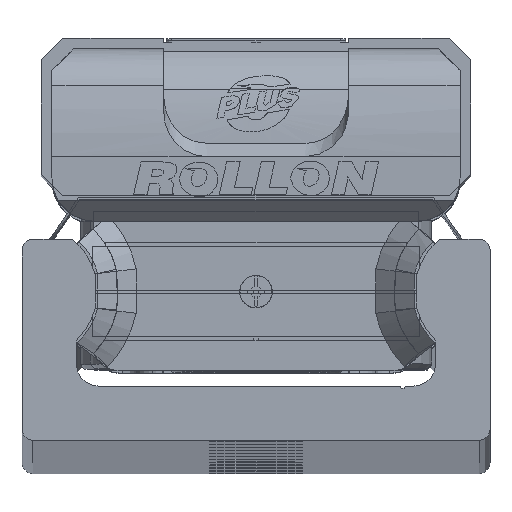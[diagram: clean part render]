
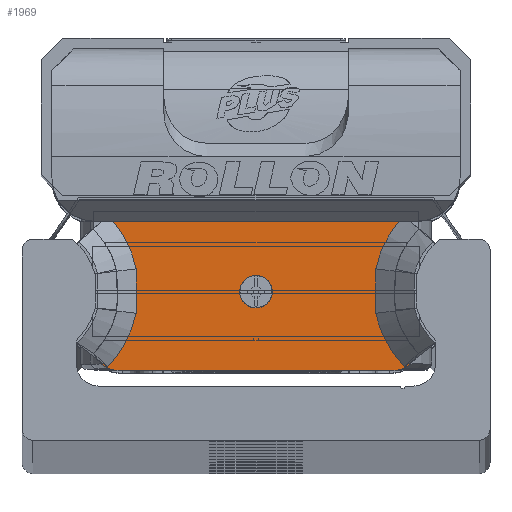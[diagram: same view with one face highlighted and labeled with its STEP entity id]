
A CAD part, top view. The second image highlights one B-rep face of the part: STEP entity #1969.
In plain terms, the highlighted planar face has unit normal (0, 0, 1) as drawn and (0, 0, -1) by its records, which use the part's own axes.
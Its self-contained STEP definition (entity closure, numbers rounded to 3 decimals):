
#1969 = ADVANCED_FACE( '', ( #4117, #4118 ), #4119, .F. );
#4117 = FACE_BOUND( '', #6539, .T. );
#4118 = FACE_OUTER_BOUND( '', #6540, .T. );
#4119 = PLANE( '', #6541 );
#6539 = EDGE_LOOP( '', ( #11703 ) );
#6540 = EDGE_LOOP( '', ( #11704, #11705, #11706, #11707, #11708, #11709, #11710, #11711, #11712, #11713, #11714, #11715 ) );
#6541 = AXIS2_PLACEMENT_3D( '', #11716, #11717, #11718 );
#11703 = ORIENTED_EDGE( '', *, *, #14163, .T. );
#11704 = ORIENTED_EDGE( '', *, *, #14283, .T. );
#11705 = ORIENTED_EDGE( '', *, *, #13188, .F. );
#11706 = ORIENTED_EDGE( '', *, *, #14951, .T. );
#11707 = ORIENTED_EDGE( '', *, *, #14031, .F. );
#11708 = ORIENTED_EDGE( '', *, *, #13887, .T. );
#11709 = ORIENTED_EDGE( '', *, *, #14419, .T. );
#11710 = ORIENTED_EDGE( '', *, *, #13433, .T. );
#11711 = ORIENTED_EDGE( '', *, *, #14952, .T. );
#11712 = ORIENTED_EDGE( '', *, *, #13110, .T. );
#11713 = ORIENTED_EDGE( '', *, *, #13672, .T. );
#11714 = ORIENTED_EDGE( '', *, *, #13273, .T. );
#11715 = ORIENTED_EDGE( '', *, *, #14953, .T. );
#11716 = CARTESIAN_POINT( '', ( 14.9, 7.35, -13.25 ) );
#11717 = DIRECTION( '', ( 0., 0., 1. ) );
#11718 = DIRECTION( '', ( 1., 0., 0. ) );
#13110 = EDGE_CURVE( '', #15586, #15584, #15587, .T. );
#13188 = EDGE_CURVE( '', #15725, #15727, #15728, .T. );
#13273 = EDGE_CURVE( '', #15872, #15870, #15873, .T. );
#13433 = EDGE_CURVE( '', #16158, #16156, #16159, .T. );
#13672 = EDGE_CURVE( '', #15584, #15872, #16554, .T. );
#13887 = EDGE_CURVE( '', #16890, #16888, #16891, .T. );
#14031 = EDGE_CURVE( '', #16890, #17107, #17108, .T. );
#14163 = EDGE_CURVE( '', #17307, #17307, #17308, .T. );
#14283 = EDGE_CURVE( '', #17483, #15727, #17484, .T. );
#14419 = EDGE_CURVE( '', #16888, #16158, #17659, .T. );
#14951 = EDGE_CURVE( '', #15725, #17107, #18324, .T. );
#14952 = EDGE_CURVE( '', #16156, #15586, #18325, .T. );
#14953 = EDGE_CURVE( '', #15870, #17483, #18326, .T. );
#15584 = VERTEX_POINT( '', #19145 );
#15586 = VERTEX_POINT( '', #19150 );
#15587 = LINE( '', #19151, #19152 );
#15725 = VERTEX_POINT( '', #19332 );
#15727 = VERTEX_POINT( '', #19335 );
#15728 = CIRCLE( '', #19336, 2.5 );
#15870 = VERTEX_POINT( '', #19524 );
#15872 = VERTEX_POINT( '', #19527 );
#15873 = B_SPLINE_CURVE_WITH_KNOTS( '', 2, ( #19528, #19529, #19530 ), .UNSPECIFIED., .F., .F., ( 3, 3 ), ( 0., 1. ), .UNSPECIFIED. );
#16156 = VERTEX_POINT( '', #19892 );
#16158 = VERTEX_POINT( '', #19895 );
#16159 = B_SPLINE_CURVE_WITH_KNOTS( '', 2, ( #19896, #19897, #19898 ), .UNSPECIFIED., .F., .F., ( 3, 3 ), ( 0., 1. ), .UNSPECIFIED. );
#16554 = B_SPLINE_CURVE_WITH_KNOTS( '', 2, ( #20445, #20446, #20447, #20448, #20449 ), .UNSPECIFIED., .F., .F., ( 3, 2, 3 ), ( 0.133, 0.5, 1. ), .UNSPECIFIED. );
#16888 = VERTEX_POINT( '', #20944 );
#16890 = VERTEX_POINT( '', #20947 );
#16891 = B_SPLINE_CURVE_WITH_KNOTS( '', 1, ( #20948, #20949 ), .UNSPECIFIED., .F., .F., ( 2, 2 ), ( 0., 1. ), .UNSPECIFIED. );
#17107 = VERTEX_POINT( '', #21246 );
#17108 = CIRCLE( '', #21247, 2.5 );
#17307 = VERTEX_POINT( '', #21522 );
#17308 = CIRCLE( '', #21523, 1.5 );
#17483 = VERTEX_POINT( '', #21769 );
#17484 = B_SPLINE_CURVE_WITH_KNOTS( '', 1, ( #21770, #21771 ), .UNSPECIFIED., .F., .F., ( 2, 2 ), ( 0., 1. ), .UNSPECIFIED. );
#17659 = B_SPLINE_CURVE_WITH_KNOTS( '', 2, ( #22011, #22012, #22013, #22014, #22015 ), .UNSPECIFIED., .F., .F., ( 3, 2, 3 ), ( 0., 0.5, 1. ), .UNSPECIFIED. );
#18324 = LINE( '', #23012, #23013 );
#18325 = B_SPLINE_CURVE_WITH_KNOTS( '', 2, ( #23014, #23015, #23016, #23017, #23018 ), .UNSPECIFIED., .F., .F., ( 3, 2, 3 ), ( 0., 0.5, 0.868 ), .UNSPECIFIED. );
#18326 = B_SPLINE_CURVE_WITH_KNOTS( '', 2, ( #23019, #23020, #23021, #23022, #23023 ), .UNSPECIFIED., .F., .F., ( 3, 2, 3 ), ( 0., 0.5, 1. ), .UNSPECIFIED. );
#19145 = CARTESIAN_POINT( '', ( 13.12, 6.4, -13.25 ) );
#19150 = CARTESIAN_POINT( '', ( -13.119, 6.4, -13.25 ) );
#19151 = CARTESIAN_POINT( '', ( 14.9, 6.4, -13.25 ) );
#19152 = VECTOR( '', #23643, 1000. );
#19332 = CARTESIAN_POINT( '', ( 12.58, -7.3, -13.25 ) );
#19335 = CARTESIAN_POINT( '', ( 14.906, -5.717, -13.25 ) );
#19336 = AXIS2_PLACEMENT_3D( '', #23764, #23765, #23766 );
#19524 = CARTESIAN_POINT( '', ( 11.012, -2.045, -13.25 ) );
#19527 = CARTESIAN_POINT( '', ( 11.012, 2.045, -13.25 ) );
#19528 = CARTESIAN_POINT( '', ( 11.012, 2.045, -13.25 ) );
#19529 = CARTESIAN_POINT( '', ( 10.888, 0., -13.25 ) );
#19530 = CARTESIAN_POINT( '', ( 11.012, -2.045, -13.25 ) );
#19892 = CARTESIAN_POINT( '', ( -11.012, 2.045, -13.25 ) );
#19895 = CARTESIAN_POINT( '', ( -11.012, -2.045, -13.25 ) );
#19896 = CARTESIAN_POINT( '', ( -11.012, -2.045, -13.25 ) );
#19897 = CARTESIAN_POINT( '', ( -10.888, 0., -13.25 ) );
#19898 = CARTESIAN_POINT( '', ( -11.012, 2.045, -13.25 ) );
#20445 = CARTESIAN_POINT( '', ( 13.119, 6.4, -13.25 ) );
#20446 = CARTESIAN_POINT( '', ( 12.459, 5.608, -13.25 ) );
#20447 = CARTESIAN_POINT( '', ( 11.968, 4.684, -13.25 ) );
#20448 = CARTESIAN_POINT( '', ( 11.301, 3.427, -13.25 ) );
#20449 = CARTESIAN_POINT( '', ( 11.012, 2.045, -13.25 ) );
#20944 = CARTESIAN_POINT( '', ( -13.628, -6.965, -13.25 ) );
#20947 = CARTESIAN_POINT( '', ( -14.904, -5.718, -13.25 ) );
#20948 = CARTESIAN_POINT( '', ( -14.915, -5.713, -13.25 ) );
#20949 = CARTESIAN_POINT( '', ( -13.628, -6.965, -13.25 ) );
#21246 = CARTESIAN_POINT( '', ( -12.58, -7.3, -13.25 ) );
#21247 = AXIS2_PLACEMENT_3D( '', #24926, #24927, #24928 );
#21522 = CARTESIAN_POINT( '', ( 1.5, -0.05, -13.25 ) );
#21523 = AXIS2_PLACEMENT_3D( '', #25096, #25097, #25098 );
#21769 = CARTESIAN_POINT( '', ( 13.628, -6.965, -13.25 ) );
#21770 = CARTESIAN_POINT( '', ( 13.628, -6.965, -13.25 ) );
#21771 = CARTESIAN_POINT( '', ( 14.9, -5.728, -13.25 ) );
#22011 = CARTESIAN_POINT( '', ( -13.628, -6.965, -13.25 ) );
#22012 = CARTESIAN_POINT( '', ( -12.638, -5.946, -13.25 ) );
#22013 = CARTESIAN_POINT( '', ( -11.97, -4.691, -13.25 ) );
#22014 = CARTESIAN_POINT( '', ( -11.303, -3.437, -13.25 ) );
#22015 = CARTESIAN_POINT( '', ( -11.012, -2.045, -13.25 ) );
#23012 = CARTESIAN_POINT( '', ( 12.58, -7.3, -13.25 ) );
#23013 = VECTOR( '', #25939, 1000. );
#23014 = CARTESIAN_POINT( '', ( -11.012, 2.045, -13.25 ) );
#23015 = CARTESIAN_POINT( '', ( -11.302, 3.432, -13.25 ) );
#23016 = CARTESIAN_POINT( '', ( -11.967, 4.685, -13.25 ) );
#23017 = CARTESIAN_POINT( '', ( -12.456, 5.606, -13.25 ) );
#23018 = CARTESIAN_POINT( '', ( -13.119, 6.4, -13.25 ) );
#23019 = CARTESIAN_POINT( '', ( 11.012, -2.045, -13.25 ) );
#23020 = CARTESIAN_POINT( '', ( 11.301, -3.43, -13.25 ) );
#23021 = CARTESIAN_POINT( '', ( 11.972, -4.69, -13.25 ) );
#23022 = CARTESIAN_POINT( '', ( 12.642, -5.95, -13.25 ) );
#23023 = CARTESIAN_POINT( '', ( 13.628, -6.965, -13.25 ) );
#23643 = DIRECTION( '', ( 1., 0., 0. ) );
#23764 = CARTESIAN_POINT( '', ( 12.58, -4.8, -13.25 ) );
#23765 = DIRECTION( '', ( 0., 0., 1. ) );
#23766 = DIRECTION( '', ( 1., 0., 0. ) );
#24926 = CARTESIAN_POINT( '', ( -12.58, -4.8, -13.25 ) );
#24927 = DIRECTION( '', ( 0., 0., 1. ) );
#24928 = DIRECTION( '', ( 1., 0., 0. ) );
#25096 = CARTESIAN_POINT( '', ( 0., -0.05, -13.25 ) );
#25097 = DIRECTION( '', ( 0., 0., 1. ) );
#25098 = DIRECTION( '', ( 1., 0., 0. ) );
#25939 = DIRECTION( '', ( -1., 0., 0. ) );
